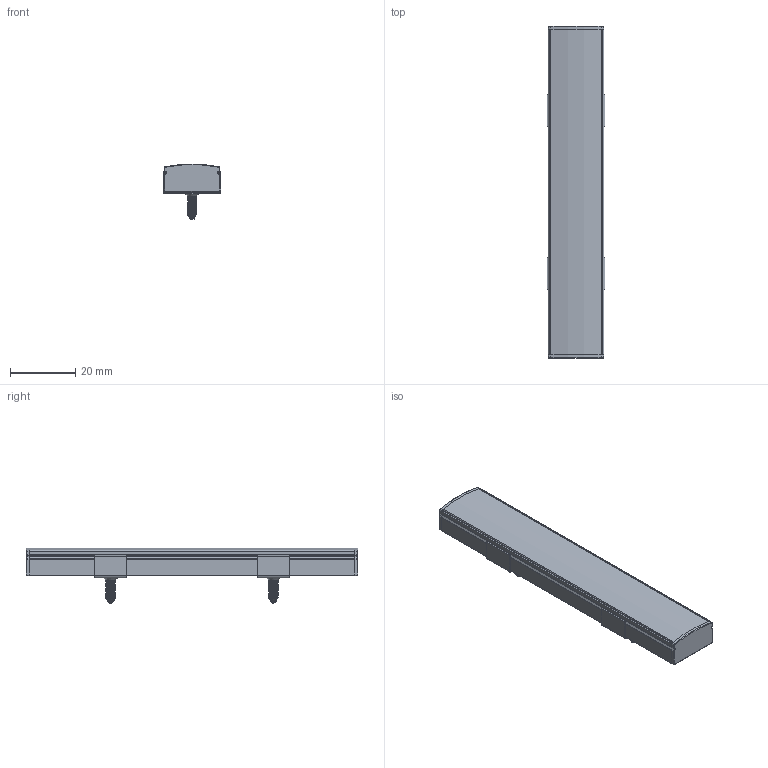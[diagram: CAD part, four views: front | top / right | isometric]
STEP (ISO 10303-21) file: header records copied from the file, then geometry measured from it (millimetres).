
FILE_DESCRIPTION(/* description */ (''),/* implementation_level */ '2;1');
FILE_NAME(/* name */ 'c:\worker\convert-fusion-r02\tmp\job-1\792\output\files\8946deb3-7495-4bac-8b57-a4059d0e48eb\a6c31c3d-aa17-4710-b237-3c60137d7b2f.stp',/* time_stamp */ '2022-03-30T12:51:58+00:00',/* author */ (''),/* organization */ (''),/* preprocessor_version */ 'ST-DEVELOPER v18.1',/* originating_system */ 'Autodesk Translation Framework v10.14.0.1471',/* authorisation */ '');
FILE_SCHEMA (('AUTOMOTIVE_DESIGN { 1 0 10303 214 3 1 1 }'));
Length unit declared in the file: millimetre
Products named in the file (9): CHAN-178; End Cap; LED Strip Light; M3x6mm; Aluminium Profile; Light Diffuser / Lens; Mounting Bracket; Mounting Bracket (1); End Cap w/ Cable Out
Assembly tree (10 placements, depth 2):
  CHAN-178
    M3x6mm  x2
    End Cap
    LED Strip Light  x2
    Aluminium Profile
    Light Diffuser / Lens
    Mounting Bracket
    Mounting Bracket (1)
    End Cap w/ Cable Out
Bounding box: 17.8 x 102.02 x 17.14 mm (x, y, z)
Volume: 7915.8 mm3; surface area: 16578.5 mm2
Topology: 86 solids, 86 shells, 1180 faces, 2702 edges, 1708 vertices
Faces by surface type: plane 501, cylinder 413, sphere 92, torus 84, bspline 78, cone 12
Full cylindrical faces by diameter (mm): 2.356 x8, 2.927 x14
Entity records: 26931 total; most frequent: CARTESIAN_POINT 7609, DIRECTION 4134, ORIENTED_EDGE 3834, EDGE_CURVE 1917, AXIS2_PLACEMENT_3D 1568, VERTEX_POINT 1204, LINE 998, VECTOR 998
